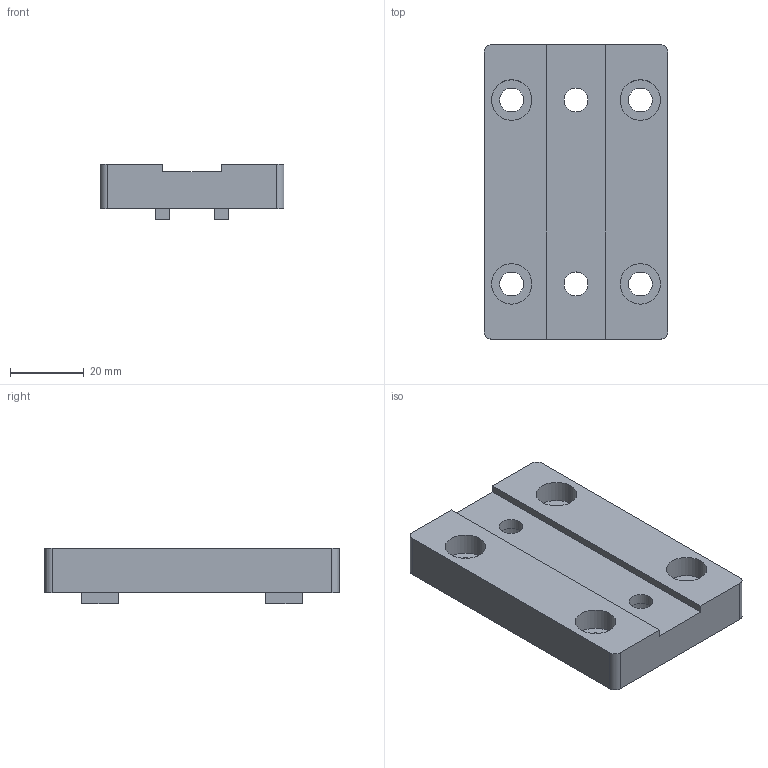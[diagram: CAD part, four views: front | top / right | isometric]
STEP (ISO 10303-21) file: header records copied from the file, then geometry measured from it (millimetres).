
FILE_DESCRIPTION(('STEP AP203'), '1');
FILE_NAME('ÒÏÏÔ1801.01.03.00.013 - Ïëàòèê ðåáðà', '', ('UNSPECIFIED'), ('UNSPECIFIED'), 'C3D Converter', 'C3D Toolkit', '');
FILE_SCHEMA(('CONFIG_CONTROL_DESIGN'));
Length unit declared in the file: millimetre
Products named in the file (1): ТППФ1801.01.03.00.013
Bounding box: 50 x 80 x 15 mm (x, y, z)
Volume: 41272 mm3; surface area: 13191.5 mm2
Topology: 1 solids, 1 shells, 52 faces, 120 edges, 80 vertices
Faces by surface type: plane 36, cylinder 16
Full cylindrical faces by diameter (mm): 6.5 x6, 11 x6
Entity records: 1896 total; most frequent: DIRECTION 246, CARTESIAN_POINT 241, ORIENTED_EDGE 216, EDGE_CURVE 108, EDGE_LOOP 86, AXIS2_PLACEMENT_3D 85, VERTEX_POINT 80, LINE 76
